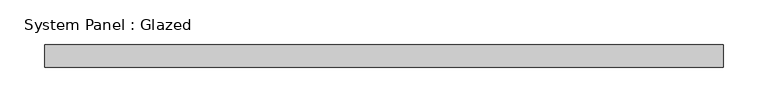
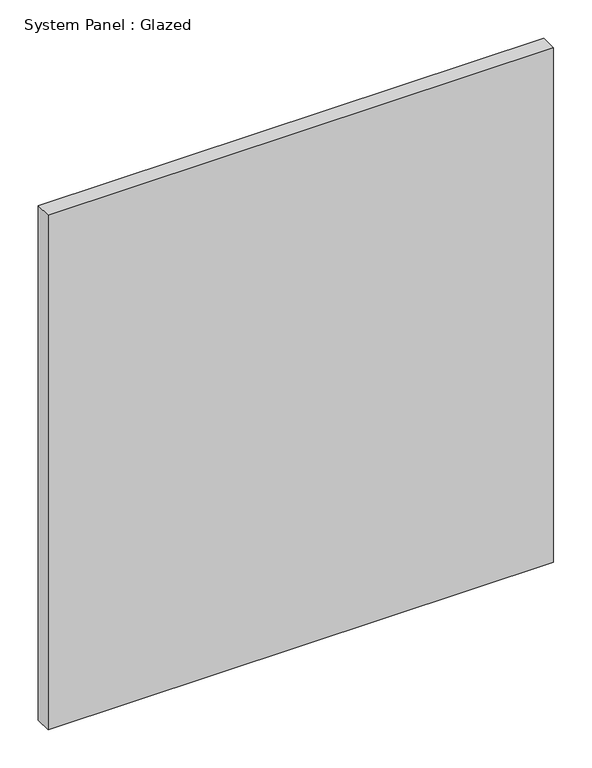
"""IFC4 building model written with IfcOpenShell, lengths in millimetres: plate geometry, System Panel : Glazed."""

from ifc_helpers import new_model, si_unit, origin, origin_with_axes, place, context, project, spatial, polyline, outline, extrude, source, transform, mapped, element, save


def system_panel_glazed_99ba6c15(model_context):
    return source(origin(), model_context, "Body", "SweptSolid", [
        extrude(outline(polyline([(381.0, 19.05), (-381.0, 19.05), (-381.0, 44.45), (381.0, 44.45), (381.0, 19.05)])), origin_with_axes(), (0.0, 0.0, 1.0), 819.15),
    ])


if __name__ == "__main__":
    model = new_model("IFC4")
    model_context = context("Model", 3, world=origin())
    ifc_project = project(units=[si_unit("LENGTHUNIT", "METRE", prefix="MILLI")], contexts=[model_context])
    site = spatial("IfcSite", under=ifc_project)
    building = spatial("IfcBuilding", under=site)
    placement = place(None, origin())
    system_panel_glazed_shape = system_panel_glazed_99ba6c15(model_context)
    element("IfcPlate", 1, ObjectType="System Panel : Glazed", at=placement, inside=building, context=model_context, shape_type="MappedRepresentation", body=[
        mapped(system_panel_glazed_shape, transform((0.0, 0.0, 0.0), x_axis=(1.0, 0.0, 0.0), y_axis=(0.0, 1.0, 0.0), z_axis=(0.0, 0.0, 1.0))),
    ])
    save(model, "model.ifc")
